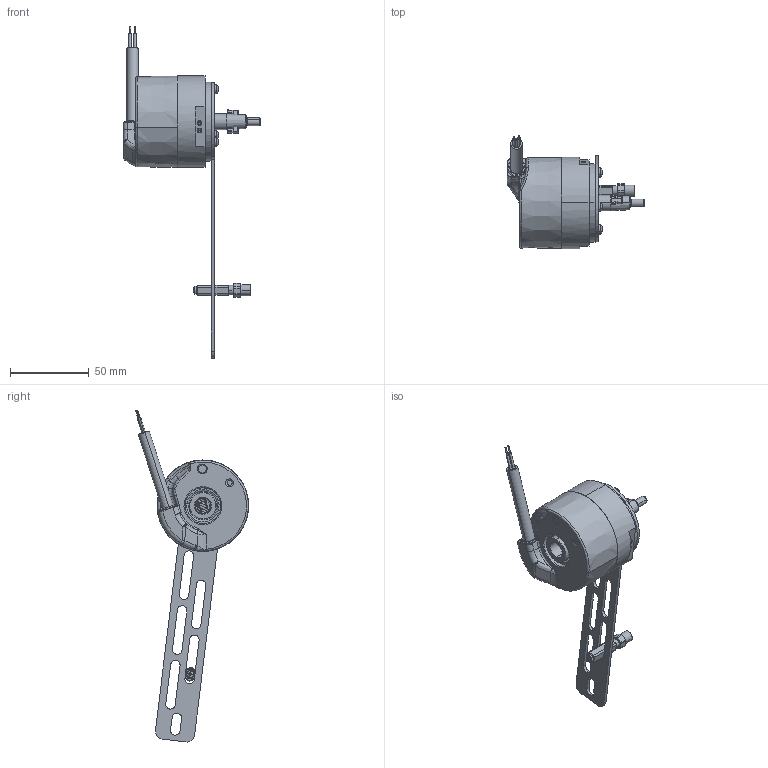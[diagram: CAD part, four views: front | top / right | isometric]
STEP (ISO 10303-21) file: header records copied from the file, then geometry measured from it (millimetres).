
FILE_DESCRIPTION (( 'STEP AP214' ), '1' );
FILE_NAME ('5834SIL.AKXE.XXXX.STEP', '2010-08-13T08:43:47', ( 'admin' ), ( 'Fritz Kübler GmbH' ), 'SwSTEP 2.0', 'SolidWorks 2009', '' );
FILE_SCHEMA (( 'AUTOMOTIVE_DESIGN' ));
Length unit declared in the file: millimetre
Products named in the file (1): 5834SIL.AKXE.XXXX
Bounding box: 87.5 x 71.81 x 210.53 mm (x, y, z)
Surface area: 34414.4 mm2 (no closed solid volume)
Topology: 0 solids, 19 shells, 402 faces, 1306 edges, 918 vertices
Faces by surface type: plane 161, cylinder 126, cone 44, torus 37, bspline 23, sphere 11
Entity records: 21332 total; most frequent: CARTESIAN_POINT 5345, DIRECTION 2504, ORIENTED_EDGE 2141, EDGE_CURVE 1304, VERTEX_POINT 918, AXIS2_PLACEMENT_3D 899, VECTOR 706, LINE 706
